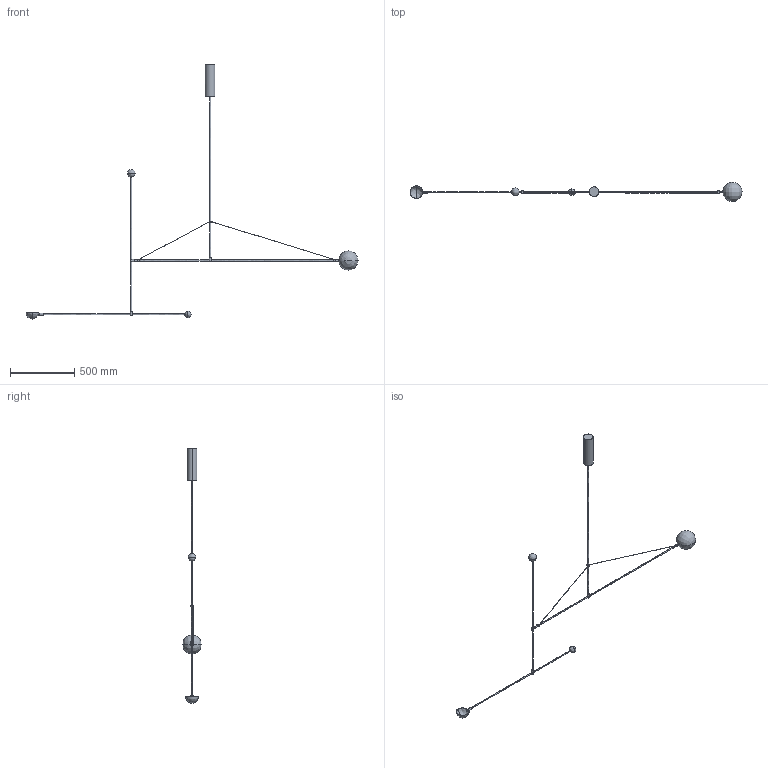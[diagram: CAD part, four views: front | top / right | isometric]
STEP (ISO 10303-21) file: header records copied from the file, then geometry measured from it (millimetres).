
FILE_DESCRIPTION(/* description */ (''),/* implementation_level */ '2;1');
FILE_NAME(/* name */ 'MA - Mobile Chandelier 1 - 240V',/* time_stamp */ '2015-06-03T12:27:45+01:00',/* author */ (''),/* organization */ (''),/* preprocessor_version */ 'ST-DEVELOPER v15',/* originating_system */ '',/* authorisation */ '');
FILE_SCHEMA (('CONFIG_CONTROL_DESIGN'));
Length unit declared in the file: millimetre
Products named in the file (1): Document
Bounding box: 2587.83 x 150 x 1981.18 mm (x, y, z)
Volume: 3399051.3 mm3; surface area: 336628.1 mm2
Topology: 1 solids, 1 shells, 72 faces, 188 edges, 113 vertices
Faces by surface type: bspline 55, plane 17
Entity records: 3555 total; most frequent: CARTESIAN_POINT 2453, ORIENTED_EDGE 344, EDGE_CURVE 172, VERTEX_POINT 113, EDGE_LOOP 87, B_SPLINE_CURVE_WITH_KNOTS 84, ADVANCED_FACE 72, FACE_OUTER_BOUND 72
